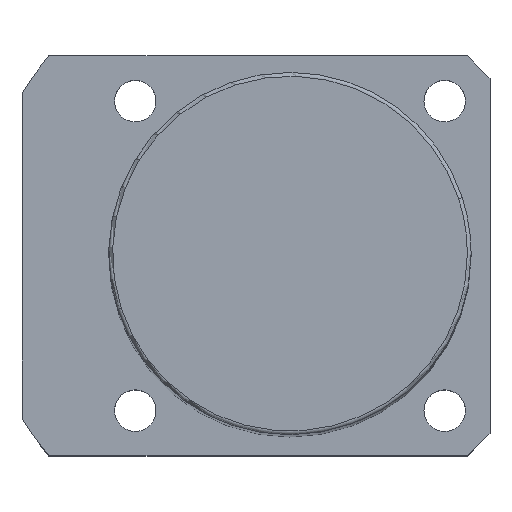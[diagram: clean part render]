
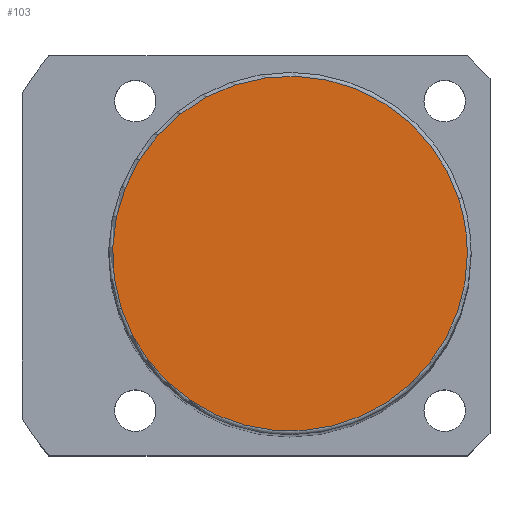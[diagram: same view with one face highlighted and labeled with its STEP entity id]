
A CAD part, top view. The second image highlights one B-rep face of the part: STEP entity #103.
In plain terms, the highlighted planar face has unit normal (0, 0, 1).
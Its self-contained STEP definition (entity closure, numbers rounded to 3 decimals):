
#16=CARTESIAN_POINT('',(-22.35,-7.262,184.0));
#17=VERTEX_POINT('',#16);
#54=CARTESIAN_POINT('',(22.35,7.262,184.0));
#55=VERTEX_POINT('',#54);
#63=CARTESIAN_POINT('',(23.5,0.0,184.0));
#64=VERTEX_POINT('',#63);
#65=CARTESIAN_POINT('',(0.0,0.0,184.0));
#66=DIRECTION('',(0.0,0.0,1.0));
#67=DIRECTION('',(1.0,0.0,0.0));
#68=AXIS2_PLACEMENT_3D('',#65,#66,#67);
#69=CIRCLE('',#68,23.5);
#70=EDGE_CURVE('no 898',#64,#55,#69,.T.);
#72=CARTESIAN_POINT('',(0.0,0.0,184.0));
#73=DIRECTION('',(0.0,0.0,1.0));
#74=DIRECTION('',(1.0,0.0,0.0));
#75=AXIS2_PLACEMENT_3D('',#72,#73,#74);
#76=CIRCLE('',#75,23.5);
#77=EDGE_CURVE('no 902',#17,#64,#76,.T.);
#87=ORIENTED_EDGE('',*,*,#70,.T.);
#88=CARTESIAN_POINT('',(0.0,0.0,184.0));
#89=DIRECTION('',(0.0,0.0,1.0));
#90=DIRECTION('',(1.0,0.0,0.0));
#91=AXIS2_PLACEMENT_3D('',#88,#89,#90);
#92=CIRCLE('',#91,23.5);
#93=EDGE_CURVE('no 911',#55,#17,#92,.T.);
#94=ORIENTED_EDGE('',*,*,#93,.T.);
#95=ORIENTED_EDGE('',*,*,#77,.T.);
#96=EDGE_LOOP('',(#87,#94,#95));
#97=FACE_OUTER_BOUND('',#96,.T.);
#98=CARTESIAN_POINT('',(0.0,0.0,184.0));
#99=DIRECTION('',(0.0,0.0,1.0));
#100=DIRECTION('',(1.0,0.0,0.0));
#101=AXIS2_PLACEMENT_3D('',#98,#99,#100);
#102=PLANE('',#101);
#103=ADVANCED_FACE('no 904',(#97),#102,.T.);
